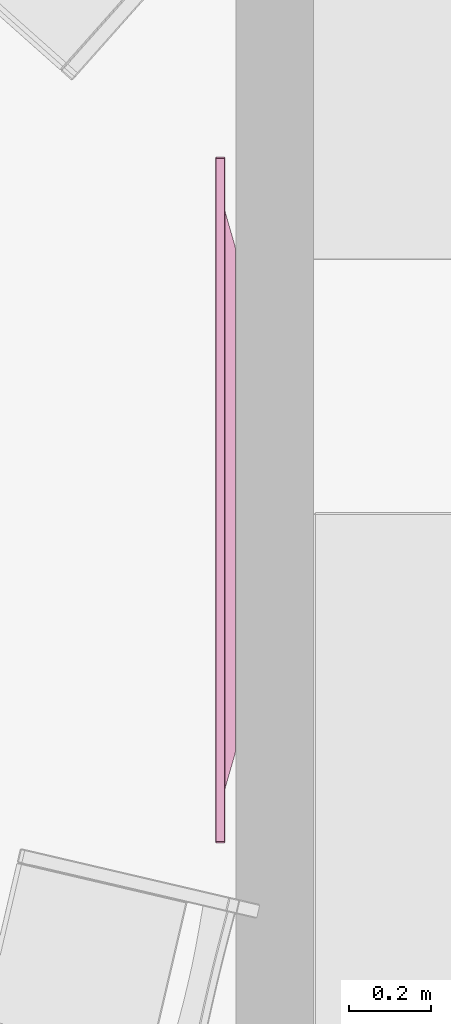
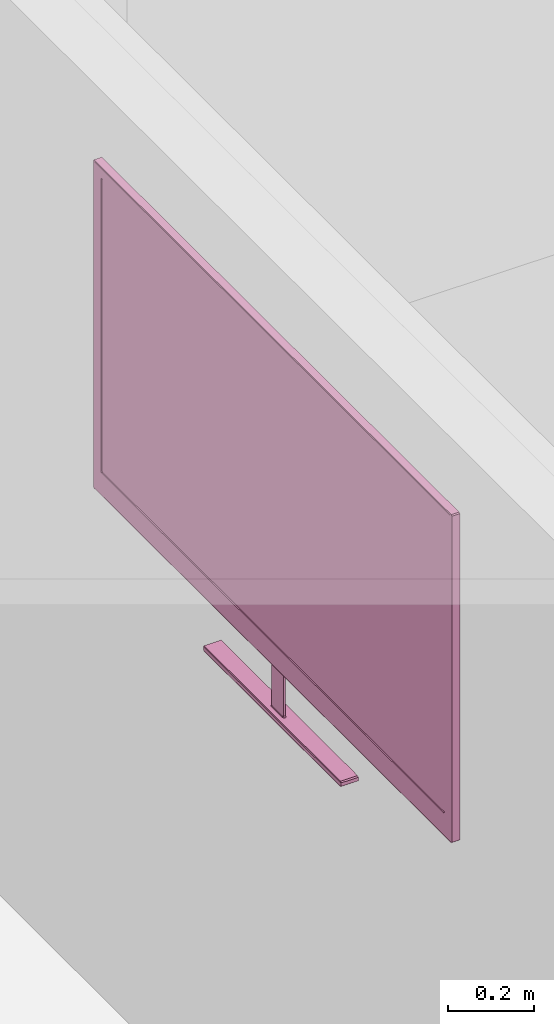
# One storey, part 24 of 26: 1 furnishing.
"""IFC2X3 building model written with IfcOpenShell, lengths in metres."""

import ifcopenshell
import ifcopenshell.guid

model = None  # the IFC model being written
_history = None  # IfcOwnerHistory: only IFC2X3 demands one
_inside = {}  # id of a spatial element -> (the spatial element, [elements in it])
_under = {}  # id of a project, library or spatial element -> (it, [spatial elements below it])
_declared = {}  # id of a project -> (the project, [libraries it declares])
_typed = {}  # id of a type object -> (the type object, [elements of that type])
_made_of = {}  # id of a material, layer set ... -> (it, [elements and type objects made of it])


def new_model(schema):
    """Start an empty IFC model of exactly this schema.

    Asked for "IFC4X3", IfcOpenShell would pick the latest addendum, in which some entities
    have other attributes; the version numbers below select the first issue.
    IFC2X3 requires an IfcOwnerHistory on every rooted entity: one is made here for all.
    """
    global model, _history
    if schema == "IFC4X3":
        model = ifcopenshell.file(schema_version=(4, 3, 0, 0))
    else:
        model = ifcopenshell.file(schema=schema)
    _inside.clear()
    _under.clear()
    _declared.clear()
    _typed.clear()
    _made_of.clear()
    _history = None
    if model.schema == "IFC2X3":
        org = make("IfcOrganization", Name="unknown")
        user = make(
            "IfcPersonAndOrganization",
            ThePerson=make("IfcPerson", FamilyName="unknown"),
            TheOrganization=org,
        )
        app = make(
            "IfcApplication",
            ApplicationDeveloper=org,
            Version="unknown",
            ApplicationFullName="unknown",
            ApplicationIdentifier="unknown",
        )
        _history = make(
            "IfcOwnerHistory",
            OwningUser=user,
            OwningApplication=app,
            ChangeAction="ADDED",
            CreationDate=0,
        )
    return model


def make(cls, **values):
    """One entity of the class cls with the attributes given. An attribute that is None is left unset."""
    return model.create_entity(
        cls, **{name: value for name, value in values.items() if value is not None}
    )


def rooted(cls, **values):
    """An entity with a GlobalId (a new one), such as an element, a storey or a relation."""
    return make(cls, GlobalId=ifcopenshell.guid.new(), OwnerHistory=_history, **values)


def si_unit(unit_type, name, prefix=None):
    """IfcSIUnit, for example si_unit("LENGTHUNIT", "METRE", prefix="MILLI")."""
    return make("IfcSIUnit", UnitType=unit_type, Prefix=prefix, Name=name)


def assignment(units):
    """IfcUnitAssignment: the units of a project."""
    return None if units is None else make("IfcUnitAssignment", Units=units)


def point(xyz):
    """IfcCartesianPoint."""
    return None if xyz is None else make("IfcCartesianPoint", Coordinates=xyz)


def direction(xyz):
    """IfcDirection."""
    return None if xyz is None else make("IfcDirection", DirectionRatios=xyz)


def frame(location, z_axis=None, x_axis=None):
    """IfcAxis2Placement3D, a coordinate frame: its origin and axes. An axis left out is left unset."""
    return make(
        "IfcAxis2Placement3D",
        Location=point(location),
        Axis=direction(z_axis),
        RefDirection=direction(x_axis),
    )


def origin_with_axes():
    """The frame at (0, 0, 0) with the z axis (0, 0, 1) and the x axis (1, 0, 0) written out."""
    return frame((0.0, 0.0, 0.0), z_axis=(0.0, 0.0, 1.0), x_axis=(1.0, 0.0, 0.0))


def place(relative_to, where):
    """IfcLocalPlacement: puts the frame where relative to a parent placement (None: the world)."""
    return make(
        "IfcLocalPlacement", PlacementRelTo=relative_to, RelativePlacement=where
    )


def context(
    kind, dimensions, precision=None, world=None, true_north=None, identifier=None
):
    """IfcGeometricRepresentationContext, for example the 3D "Model" context."""
    return make(
        "IfcGeometricRepresentationContext",
        ContextIdentifier=identifier,
        ContextType=kind,
        CoordinateSpaceDimension=dimensions,
        Precision=precision,
        WorldCoordinateSystem=world,
        TrueNorth=true_north,
    )


def project(units=None, contexts=None):
    """IfcProject with its units and contexts."""
    return rooted(
        "IfcProject",
        Name="project",
        RepresentationContexts=contexts,
        UnitsInContext=assignment(units),
    )


def spatial(cls, under=None, at=None, **own):
    """A site, building, storey or space (cls), placed at a placement, below another one or the project."""
    s = rooted(cls, ObjectPlacement=at, **own)
    if under is not None:
        _under.setdefault(under.id(), (under, []))[1].append(s)
    return s


def faces_of(points, faces, orient=None, outer=None):
    """IfcFace entities. A face is a list of loops; a loop is a list of indices into points, from 0.

    orient and outer hold one flag for each loop. By default every Orientation is true, the
    first loop of a face is its IfcFaceOuterBound and the others are IfcFaceBound.
    """
    made = []
    for i, loops in enumerate(faces):
        bounds = []
        for j, loop in enumerate(loops):
            is_outer = j == 0 if outer is None else outer[i][j]
            bounds.append(
                make(
                    "IfcFaceOuterBound" if is_outer else "IfcFaceBound",
                    Bound=make("IfcPolyLoop", Polygon=[points[k] for k in loop]),
                    Orientation=True if orient is None else orient[i][j],
                )
            )
        made.append(make("IfcFace", Bounds=bounds))
    return made


def faceted_brep(points, faces, orient=None, outer=None, voids=None):
    """IfcFacetedBrep: a solid bounded by flat faces; with voids (closed shells), ...WithVoids."""
    shared = [point(p) for p in points]
    hull = make("IfcClosedShell", CfsFaces=faces_of(shared, faces, orient, outer))
    if voids is None:
        return make("IfcFacetedBrep", Outer=hull)
    return make(
        "IfcFacetedBrepWithVoids",
        Outer=hull,
        Voids=[
            make(cls, CfsFaces=faces_of(shared, fs, o, b)) for cls, fs, o, b in voids
        ],
    )


def shape(context_of_items, identifier, shape_type, items):
    """IfcShapeRepresentation: the items that make up one representation, for example the "Body"."""
    return make(
        "IfcShapeRepresentation",
        ContextOfItems=context_of_items,
        RepresentationIdentifier=identifier,
        RepresentationType=shape_type,
        Items=items,
    )


def made_of(thing, what):
    """Note that an element or type object is made of a material, layer set ...; save() writes the relation."""
    if what is not None:
        _made_of.setdefault(what.id(), (what, []))[1].append(thing)
    return thing


def type_object(cls, material=None, **own):
    """A type object (cls), such as IfcWallType, which elements share."""
    return made_of(rooted(cls, **own), material)


def element(
    cls,
    number,
    at=None,
    inside=None,
    cuts=None,
    type_object=None,
    material=None,
    context=None,
    identifier="Body",
    shape_type=None,
    held_by="IfcProductDefinitionShape",
    body=None,
    shapes=None,
    **own,
):
    """One element of the class cls, such as IfcWall. Its Tag is "e" and its number.

    at: its placement. inside: the storey or other place that contains it. cuts: it is an
    opening in that element (IfcRelVoidsElement). A single representation is given by context,
    identifier, shape_type and body (its items); several are given by shapes. held_by: the class
    of the entity that holds the representations. save() writes the other relations.
    """
    e = rooted(cls, Tag="e%d" % number, ObjectPlacement=at, **own)
    if body is not None:
        shapes = [shape(context, identifier, shape_type, body)]
    if shapes is not None:
        e.Representation = make(held_by, Representations=shapes)
    if inside is not None:
        _inside.setdefault(inside.id(), (inside, []))[1].append(e)
    if cuts is not None:
        rooted(
            "IfcRelVoidsElement", RelatingBuildingElement=cuts, RelatedOpeningElement=e
        )
    if type_object is not None:
        _typed.setdefault(type_object.id(), (type_object, []))[1].append(e)
    return made_of(e, material)


def aggregate(whole, parts):
    """IfcRelAggregates: a whole, such as a stair, and the parts it consists of."""
    return rooted("IfcRelAggregates", RelatingObject=whole, RelatedObjects=parts)


def save(model, path):
    """Write the relations noted so far, then the file.

    IfcRelAggregates (storeys below a building ...), IfcRelContainedInSpatialStructure (elements
    in a storey), IfcRelDefinesByType, IfcRelAssociatesMaterial and IfcRelDeclares: one each for
    every whole, place, type object, material and project.
    """
    for whole, parts in _under.values():
        aggregate(whole, parts)
    for where, things in _inside.values():
        rooted(
            "IfcRelContainedInSpatialStructure",
            RelatedElements=things,
            RelatingStructure=where,
        )
    for kind, things in _typed.values():
        rooted("IfcRelDefinesByType", RelatedObjects=things, RelatingType=kind)
    for what, things in _made_of.values():
        rooted("IfcRelAssociatesMaterial", RelatedObjects=things, RelatingMaterial=what)
    for by, libraries in _declared.values():
        rooted("IfcRelDeclares", RelatingContext=by, RelatedDefinitions=libraries)
    model.write(path)


model = new_model("IFC2X3")

# Units and contexts
model_context = context("Model", 3, precision=1e-05, world=origin_with_axes(), true_north=direction((0.996, -0.093, 0.0)))
ifc_project = project(units=[si_unit("AREAUNIT", "SQUARE_METRE"), si_unit("LENGTHUNIT", "METRE")], contexts=[model_context])

# Site, building, storey, space
site_placement = place(None, origin_with_axes())
site = spatial("IfcSite", under=ifc_project, at=site_placement, Name="Site", CompositionType="ELEMENT")
building_placement = place(site_placement, origin_with_axes())
building = spatial("IfcBuilding", under=site, at=building_placement, Name="Building", CompositionType="ELEMENT")
storey_placement = place(building_placement, frame((0.0, 0.0, 0.0500001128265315), z_axis=(0.0, 0.0, 1.0), x_axis=(1.0, 0.0, 0.0)))
storey = spatial("IfcBuildingStorey", under=building, at=storey_placement, Name="Story 0", CompositionType="ELEMENT", Elevation=0.0499999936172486)
space_placement = place(storey_placement, frame((14.3044468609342, 7.25731168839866, 0.0), z_axis=(0.0, 0.0, 1.0), x_axis=(1.0, 0.0, 0.0)))
space = spatial("IfcSpace", under=storey, at=space_placement, Name="017", CompositionType="ELEMENT", InteriorOrExteriorSpace="INTERNAL")

# Furnishing
furniture_type = type_object("IfcFurnitureType", Name="4c5f06b1-99d2-45d6-8dc5-f8cf329c67a9")
furnishing_placement = place(space_placement, frame((8.59559281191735, 2.02205099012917, 1.88084943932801), z_axis=(0.0, 0.0, 1.00000000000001), x_axis=(-1.00000000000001, 0.0, 0.0)))
element("IfcFurnishingElement", 1, at=furnishing_placement, inside=space, type_object=furniture_type, Name="Television", ObjectType="Television", context=model_context, shape_type="Brep", body=[
    faceted_brep([(0.0175, -0.7913, -0.3209), (0.0175, 0.7913, -0.3209), (0.0175, -0.7945, -0.3179), (0.0175, -0.7945, 0.5031), (0.0175, -0.7945, -0.3179), (0.0175, -0.7913, 0.5061), (0.0175, 0.7913, 0.5061), (0.0175, -0.7913, 0.5061), (0.0175, 0.7945, 0.5031), (0.0175, -0.7913, 0.5061), (0.0175, -0.7945, -0.3179), (0.0175, 0.7945, 0.5031), (0.0175, -0.7945, -0.3179), (0.0175, 0.7913, -0.3209), (0.0175, 0.7945, 0.5031), (0.0175, 0.7913, -0.3209), (0.0175, 0.7945, -0.3179), (0.0175, 0.7945, 0.5031), (0.0018, -0.8345, 0.5399), (0.0018, -0.8345, -0.387), (0.0231, -0.8345, 0.5399), (0.0231, -0.8345, -0.387), (0.0231, -0.8345, 0.5399), (0.0018, -0.8345, -0.387), (0.0018, 0.8345, -0.387), (0.0018, 0.8345, 0.5399), (0.0231, 0.8345, -0.387), (0.0231, 0.8345, 0.5399), (0.0231, 0.8345, -0.387), (0.0018, 0.8345, 0.5399), (0.0018, 0.8314, 0.5427), (0.0018, -0.8314, 0.5427), (0.0231, 0.8314, 0.5427), (0.0231, -0.8314, 0.5427), (0.0231, 0.8314, 0.5427), (0.0018, -0.8314, 0.5427), (0.0087, -0.0288, -0.3564), (0.0037, -0.0288, -0.3564), (0.0087, -0.0288, -0.5242), (0.0037, -0.0288, -0.5242), (0.0087, -0.0288, -0.5242), (0.0037, -0.0288, -0.3564), (0.0098, 0.0228, -0.3564), (0.0098, -0.0257, -0.3564), (0.0098, 0.0228, -0.5242), (0.0098, -0.0257, -0.5242), (0.0098, 0.0228, -0.5242), (0.0098, -0.0257, -0.3564), (0.0037, 0.0259, -0.3564), (0.0087, 0.0259, -0.3564), (0.0037, 0.0259, -0.5242), (0.0087, 0.0259, -0.5242), (0.0037, 0.0259, -0.5242), (0.0087, 0.0259, -0.3564), (-0.0243, 0.6117, -0.2184), (-0.0243, -0.6117, -0.2184), (-0.0243, 0.6117, 0.3713), (-0.0243, -0.6117, 0.3713), (-0.0243, 0.6117, 0.3713), (-0.0243, -0.6117, -0.2184), (0.0026, 0.0228, -0.5242), (0.0026, -0.0257, -0.5242), (0.0026, 0.0228, -0.3564), (0.0026, -0.0257, -0.3564), (0.0026, 0.0228, -0.3564), (0.0026, -0.0257, -0.5242), (0.0231, -0.8314, -0.3898), (0.0018, -0.8314, -0.3898), (0.0231, 0.8314, -0.3898), (0.0018, 0.8314, -0.3898), (0.0231, 0.8314, -0.3898), (0.0018, -0.8314, -0.3898), (-0.023, -0.3191, -0.5427), (-0.023, 0.3163, -0.5427), (0.0232, -0.3191, -0.5427), (0.0232, 0.3163, -0.5427), (0.0232, -0.3191, -0.5427), (-0.023, 0.3163, -0.5427), (0.0242, -0.7988, -0.3294), (0.0242, -0.8295, -0.387), (0.0242, 0.7988, -0.3294), (0.0242, 0.8295, -0.387), (0.0242, 0.7988, -0.3294), (0.0242, -0.8295, -0.387), (0.0242, -0.8038, 0.5106), (0.0242, -0.8314, 0.5359), (0.0242, -0.8038, -0.3259), (0.0242, -0.8314, -0.3776), (0.0242, -0.8038, -0.3259), (0.0242, -0.8314, 0.5359), (0.0242, 0.7994, 0.5146), (0.0242, 0.827, 0.5399), (0.0242, -0.7994, 0.5146), (0.0242, -0.827, 0.5399), (0.0242, -0.7994, 0.5146), (0.0242, 0.827, 0.5399), (0.0242, 0.8314, -0.3776), (0.0242, 0.8314, 0.5359), (0.0242, 0.8038, -0.3259), (0.0242, 0.8038, 0.5106), (0.0242, 0.8038, -0.3259), (0.0242, 0.8314, 0.5359), (0.0175, -0.7913, -0.3209), (0.0231, -0.7965, -0.3257), (0.0175, 0.7913, -0.3209), (0.0231, 0.7965, -0.3257), (0.0175, 0.7913, -0.3209), (0.0231, -0.7965, -0.3257), (0.0175, -0.7945, 0.5031), (0.0231, -0.7997, 0.5079), (0.0175, -0.7945, -0.3179), (0.0231, -0.7997, -0.3227), (0.0175, -0.7945, -0.3179), (0.0231, -0.7997, 0.5079), (0.0175, 0.7913, 0.5061), (0.0231, 0.7965, 0.5109), (0.0175, -0.7913, 0.5061), (0.0231, -0.7965, 0.5109), (0.0175, -0.7913, 0.5061), (0.0231, 0.7965, 0.5109), (0.0175, 0.7945, -0.3179), (0.0231, 0.7997, -0.3227), (0.0175, 0.7945, 0.5031), (0.0231, 0.7997, 0.5079), (0.0175, 0.7945, 0.5031), (0.0231, 0.7997, -0.3227), (0.0007, -0.7044, -0.2733), (0.0007, -0.8314, -0.3833), (0.0007, -0.7044, 0.4262), (0.0007, -0.8314, 0.5361), (0.0007, -0.7044, 0.4262), (0.0007, -0.8314, -0.3833), (0.0007, 0.7001, -0.2774), (0.0007, 0.8267, -0.387), (0.0007, -0.7001, -0.2774), (0.0007, -0.8267, -0.387), (0.0007, -0.7001, -0.2774), (0.0007, 0.8267, -0.387), (0.0007, 0.7044, 0.4262), (0.0007, 0.8314, 0.5361), (0.0007, 0.7044, -0.2733), (0.0007, 0.8314, -0.3833), (0.0007, 0.7044, -0.2733), (0.0007, 0.8314, 0.5361), (0.0007, -0.7001, 0.4303), (0.0007, -0.8267, 0.5399), (0.0007, 0.7001, 0.4303), (0.0007, 0.8267, 0.5399), (0.0007, 0.7001, 0.4303), (0.0007, -0.8267, 0.5399), (-0.0236, -0.6172, 0.3724), (-0.0236, -0.6172, -0.2196), (0.0, -0.6989, 0.4227), (0.0, -0.6989, -0.2698), (0.0, -0.6989, 0.4227), (-0.0236, -0.6172, -0.2196), (-0.0234, -0.6134, -0.2231), (-0.0234, 0.6134, -0.2231), (-0.0002, -0.6941, -0.2727), (-0.0002, 0.6941, -0.2727), (-0.0002, -0.6941, -0.2727), (-0.0234, 0.6134, -0.2231), (-0.0236, 0.6172, -0.2196), (-0.0236, 0.6172, 0.3724), (0.0, 0.6989, -0.2698), (0.0, 0.6989, 0.4227), (0.0, 0.6989, -0.2698), (-0.0236, 0.6172, 0.3724), (-0.0234, 0.6134, 0.376), (-0.0234, -0.6134, 0.376), (-0.0002, 0.6941, 0.4256), (-0.0002, -0.6941, 0.4256), (-0.0002, 0.6941, 0.4256), (-0.0234, -0.6134, 0.376), (0.0243, 0.3163, -0.5399), (0.0243, 0.3163, -0.53), (0.0243, -0.3191, -0.5399), (0.0243, -0.3191, -0.53), (0.0243, -0.3191, -0.5399), (0.0243, 0.3163, -0.53), (-0.023, 0.3194, -0.5399), (-0.023, 0.3194, -0.53), (0.0232, 0.3194, -0.5399), (0.0232, 0.3194, -0.53), (0.0232, 0.3194, -0.5399), (-0.023, 0.3194, -0.53), (-0.0241, -0.3191, -0.5399), (-0.0241, -0.3191, -0.53), (-0.0241, 0.3163, -0.5399), (-0.0241, 0.3163, -0.53), (-0.0241, 0.3163, -0.5399), (-0.0241, -0.3191, -0.53), (0.0232, -0.3222, -0.5399), (0.0232, -0.3222, -0.53), (-0.023, -0.3222, -0.5399), (-0.023, -0.3222, -0.53), (-0.023, -0.3222, -0.5399), (0.0232, -0.3222, -0.53), (-0.0227, -0.3191, -0.5272), (0.023, -0.3191, -0.5272), (0.0035, -0.0318, -0.527), (0.0088, -0.0318, -0.527), (0.0035, -0.0318, -0.527), (0.023, -0.3191, -0.5272), (0.0015, 0.0255, -0.527), (-0.023, 0.2945, -0.5272), (0.0015, -0.0284, -0.527), (-0.023, -0.2973, -0.5272), (0.0015, -0.0284, -0.527), (-0.023, 0.2945, -0.5272), (0.0088, 0.029, -0.527), (0.023, 0.3163, -0.5272), (0.0035, 0.029, -0.527), (-0.0227, 0.3163, -0.5272), (0.0035, 0.029, -0.527), (0.023, 0.3163, -0.5272), (0.0109, -0.0285, -0.527), (0.0232, -0.2767, -0.5271), (0.0109, 0.0257, -0.527), (0.0232, 0.2738, -0.5271), (0.0109, 0.0257, -0.527), (0.0232, -0.2767, -0.5271), (0.021, -0.8162, -0.3372), (0.021, 0.8162, -0.3372), (0.021, -0.8162, 0.5224), (0.021, 0.8162, 0.5224), (0.021, -0.8162, 0.5224), (0.021, 0.8162, -0.3372), (0.0242, -0.827, 0.5399), (0.0231, -0.8314, 0.5427), (0.0242, -0.8314, 0.5359), (0.0231, -0.8345, 0.5399), (0.0242, -0.8314, 0.5359), (0.0231, -0.8314, 0.5427), (0.0007, 0.8267, 0.5399), (0.0018, 0.8314, 0.5427), (0.0007, 0.8314, 0.5361), (0.0018, 0.8345, 0.5399), (0.0007, 0.8314, 0.5361), (0.0018, 0.8314, 0.5427), (0.0242, 0.8314, 0.5359), (0.0231, 0.8345, 0.5399), (0.0242, 0.827, 0.5399), (0.0231, 0.8314, 0.5427), (0.0242, 0.827, 0.5399), (0.0231, 0.8345, 0.5399), (0.0035, -0.0318, -0.527), (0.0037, -0.0288, -0.5242), (0.0015, -0.0284, -0.527), (0.0026, -0.0257, -0.5242), (0.0015, -0.0284, -0.527), (0.0037, -0.0288, -0.5242), (0.0088, -0.0318, -0.527), (0.0109, -0.0285, -0.527), (0.0087, -0.0288, -0.5242), (0.0098, -0.0257, -0.5242), (0.0087, -0.0288, -0.5242), (0.0109, -0.0285, -0.527), (0.0088, 0.029, -0.527), (0.0087, 0.0259, -0.5242), (0.0109, 0.0257, -0.527), (0.0098, 0.0228, -0.5242), (0.0109, 0.0257, -0.527), (0.0087, 0.0259, -0.5242), (-0.0234, -0.6134, 0.376), (-0.0243, -0.6117, 0.3713), (-0.0236, -0.6172, 0.3724), (0.0035, 0.029, -0.527), (0.0015, 0.0255, -0.527), (0.0037, 0.0259, -0.5242), (0.0026, 0.0228, -0.5242), (0.0037, 0.0259, -0.5242), (0.0015, 0.0255, -0.527), (0.0007, -0.8267, -0.387), (0.0018, -0.8314, -0.3898), (0.0007, -0.8314, -0.3833), (0.0018, -0.8345, -0.387), (0.0007, -0.8314, -0.3833), (0.0018, -0.8314, -0.3898), (0.0242, -0.8314, -0.3776), (0.0231, -0.8345, -0.387), (0.0242, -0.8295, -0.387), (0.0231, -0.8314, -0.3898), (0.0242, -0.8295, -0.387), (0.0231, -0.8345, -0.387), (0.0232, -0.3222, -0.5399), (0.0232, -0.3191, -0.5427), (0.0243, -0.3191, -0.5399), (0.0242, 0.8314, -0.3776), (0.0242, 0.8295, -0.387), (0.0231, 0.8345, -0.387), (0.0231, 0.8314, -0.3898), (0.0231, 0.8345, -0.387), (0.0242, 0.8295, -0.387), (0.0231, -0.7997, -0.3227), (0.0242, -0.8038, -0.3259), (0.0231, -0.7965, -0.3257), (0.0242, -0.7988, -0.3294), (0.0231, -0.7965, -0.3257), (0.0242, -0.8038, -0.3259), (0.0231, -0.7965, 0.5109), (0.0242, -0.7994, 0.5146), (0.0231, -0.7997, 0.5079), (0.0242, -0.8038, 0.5106), (0.0231, -0.7997, 0.5079), (0.0242, -0.7994, 0.5146), (0.0231, 0.7997, 0.5079), (0.0242, 0.8038, 0.5106), (0.0231, 0.7965, 0.5109), (0.0242, 0.7994, 0.5146), (0.0231, 0.7965, 0.5109), (0.0242, 0.8038, 0.5106), (0.0231, 0.7997, -0.3227), (0.0231, 0.7965, -0.3257), (0.0242, 0.8038, -0.3259), (0.0242, 0.7988, -0.3294), (0.0242, 0.8038, -0.3259), (0.0231, 0.7965, -0.3257), (0.0007, -0.8267, 0.5399), (0.0007, -0.8314, 0.5361), (0.0018, -0.8314, 0.5427), (0.0018, -0.8345, 0.5399), (0.0018, -0.8314, 0.5427), (0.0007, -0.8314, 0.5361), (-0.0002, -0.6941, 0.4256), (0.0, -0.6989, 0.4227), (0.0007, -0.7001, 0.4303), (0.0007, -0.7044, 0.4262), (0.0007, -0.7001, 0.4303), (0.0, -0.6989, 0.4227), (-0.0002, -0.6941, -0.2727), (0.0007, -0.7001, -0.2774), (0.0, -0.6989, -0.2698), (0.0007, -0.7044, -0.2733), (0.0, -0.6989, -0.2698), (0.0007, -0.7001, -0.2774), (0.0007, 0.8267, -0.387), (0.0007, 0.8314, -0.3833), (0.0018, 0.8314, -0.3898), (0.0018, 0.8345, -0.387), (0.0018, 0.8314, -0.3898), (0.0007, 0.8314, -0.3833), (-0.0002, 0.6941, -0.2727), (0.0, 0.6989, -0.2698), (0.0007, 0.7001, -0.2774), (0.0007, 0.7044, -0.2733), (0.0007, 0.7001, -0.2774), (0.0, 0.6989, -0.2698), (-0.0002, 0.6941, 0.4256), (0.0007, 0.7001, 0.4303), (0.0, 0.6989, 0.4227), (0.0007, 0.7044, 0.4262), (0.0, 0.6989, 0.4227), (0.0007, 0.7001, 0.4303), (-0.0234, -0.6134, -0.2231), (-0.0236, -0.6172, -0.2196), (-0.0243, -0.6117, -0.2184), (-0.0236, 0.6172, -0.2196), (-0.0234, 0.6134, -0.2231), (-0.0243, 0.6117, -0.2184), (-0.0234, 0.6134, 0.376), (-0.0236, 0.6172, 0.3724), (-0.0243, 0.6117, 0.3713), (0.0232, 0.3194, -0.5399), (0.0243, 0.3163, -0.5399), (0.0232, 0.3163, -0.5427), (-0.0241, 0.3163, -0.5399), (-0.023, 0.3194, -0.5399), (-0.023, 0.3163, -0.5427), (-0.023, -0.3222, -0.5399), (-0.0241, -0.3191, -0.5399), (-0.023, -0.3191, -0.5427), (-0.023, -0.2973, -0.5272), (-0.0241, -0.3191, -0.53), (-0.0227, -0.3191, -0.5272), (-0.023, -0.3222, -0.53), (-0.0227, -0.3191, -0.5272), (-0.0241, -0.3191, -0.53), (0.0232, -0.2767, -0.5271), (0.023, -0.3191, -0.5272), (0.0243, -0.3191, -0.53), (0.0232, -0.3222, -0.53), (0.0243, -0.3191, -0.53), (0.023, -0.3191, -0.5272), (-0.023, 0.2945, -0.5272), (-0.0227, 0.3163, -0.5272), (-0.0241, 0.3163, -0.53), (-0.023, 0.3194, -0.53), (-0.0241, 0.3163, -0.53), (-0.0227, 0.3163, -0.5272), (0.0232, 0.3194, -0.53), (0.023, 0.3163, -0.5272), (0.0243, 0.3163, -0.53), (0.0232, 0.2738, -0.5271), (0.0243, 0.3163, -0.53), (0.023, 0.3163, -0.5272), (0.0231, -0.8345, -0.387), (0.0018, -0.8345, -0.387), (0.0231, -0.8314, -0.3898), (0.0018, -0.8314, -0.3898), (0.0231, -0.8314, -0.3898), (0.0018, -0.8345, -0.387), (0.0018, -0.8345, 0.5399), (0.0231, -0.8345, 0.5399), (0.0018, -0.8314, 0.5427), (0.0231, -0.8314, 0.5427), (0.0018, -0.8314, 0.5427), (0.0231, -0.8345, 0.5399), (0.0231, 0.8345, 0.5399), (0.0018, 0.8345, 0.5399), (0.0231, 0.8314, 0.5427), (0.0018, 0.8314, 0.5427), (0.0231, 0.8314, 0.5427), (0.0018, 0.8345, 0.5399), (0.0018, 0.8345, -0.387), (0.0231, 0.8345, -0.387), (0.0018, 0.8314, -0.3898), (0.0231, 0.8314, -0.3898), (0.0018, 0.8314, -0.3898), (0.0231, 0.8345, -0.387), (0.0037, -0.0288, -0.5242), (0.0037, -0.0288, -0.3564), (0.0026, -0.0257, -0.5242), (0.0026, -0.0257, -0.3564), (0.0026, -0.0257, -0.5242), (0.0037, -0.0288, -0.3564), (0.0087, -0.0288, -0.3564), (0.0087, -0.0288, -0.5242), (0.0098, -0.0257, -0.3564), (0.0098, -0.0257, -0.5242), (0.0098, -0.0257, -0.3564), (0.0087, -0.0288, -0.5242), (0.0098, 0.0228, -0.3564), (0.0098, 0.0228, -0.5242), (0.0087, 0.0259, -0.3564), (0.0087, 0.0259, -0.5242), (0.0087, 0.0259, -0.3564), (0.0098, 0.0228, -0.5242), (0.0037, 0.0259, -0.3564), (0.0037, 0.0259, -0.5242), (0.0026, 0.0228, -0.3564), (0.0026, 0.0228, -0.5242), (0.0026, 0.0228, -0.3564), (0.0037, 0.0259, -0.5242), (-0.0243, -0.6117, 0.3713), (-0.0243, -0.6117, -0.2184), (-0.0236, -0.6172, 0.3724), (-0.0236, -0.6172, -0.2196), (-0.0236, -0.6172, 0.3724), (-0.0243, -0.6117, -0.2184), (-0.0243, -0.6117, -0.2184), (-0.0243, 0.6117, -0.2184), (-0.0234, -0.6134, -0.2231), (-0.0234, 0.6134, -0.2231), (-0.0234, -0.6134, -0.2231), (-0.0243, 0.6117, -0.2184), (-0.0243, 0.6117, -0.2184), (-0.0243, 0.6117, 0.3713), (-0.0236, 0.6172, -0.2196), (-0.0236, 0.6172, 0.3724), (-0.0236, 0.6172, -0.2196), (-0.0243, 0.6117, 0.3713), (-0.0243, 0.6117, 0.3713), (-0.0243, -0.6117, 0.3713), (-0.0234, 0.6134, 0.376), (-0.0234, -0.6134, 0.376), (-0.0234, 0.6134, 0.376), (-0.0243, -0.6117, 0.3713), (0.0232, 0.3163, -0.5427), (-0.023, 0.3163, -0.5427), (0.0232, 0.3194, -0.5399), (-0.023, 0.3194, -0.5399), (0.0232, 0.3194, -0.5399), (-0.023, 0.3163, -0.5427), (-0.023, 0.3163, -0.5427), (-0.023, -0.3191, -0.5427), (-0.0241, 0.3163, -0.5399), (-0.0241, -0.3191, -0.5399), (-0.0241, 0.3163, -0.5399), (-0.023, -0.3191, -0.5427), (-0.023, -0.3191, -0.5427), (0.0232, -0.3191, -0.5427), (-0.023, -0.3222, -0.5399), (0.0232, -0.3222, -0.5399), (-0.023, -0.3222, -0.5399), (0.0232, -0.3191, -0.5427), (0.0232, -0.3191, -0.5427), (0.0232, 0.3163, -0.5427), (0.0243, -0.3191, -0.5399), (0.0243, 0.3163, -0.5399), (0.0243, -0.3191, -0.5399), (0.0232, 0.3163, -0.5427), (0.0242, 0.8295, -0.387), (0.0242, -0.8295, -0.387), (0.0231, 0.8314, -0.3898), (0.0231, -0.8314, -0.3898), (0.0231, 0.8314, -0.3898), (0.0242, -0.8295, -0.387), (0.0242, -0.8295, -0.387), (0.0242, -0.7988, -0.3294), (0.0242, -0.8314, -0.3776), (0.0242, -0.8038, -0.3259), (0.0242, -0.8314, -0.3776), (0.0242, -0.7988, -0.3294), (0.0242, -0.8314, -0.3776), (0.0242, -0.8314, 0.5359), (0.0231, -0.8345, -0.387), (0.0231, -0.8345, 0.5399), (0.0231, -0.8345, -0.387), (0.0242, -0.8314, 0.5359), (0.0242, -0.8314, 0.5359), (0.0242, -0.8038, 0.5106), (0.0242, -0.827, 0.5399), (0.0242, -0.7994, 0.5146), (0.0242, -0.827, 0.5399), (0.0242, -0.8038, 0.5106), (0.0242, -0.827, 0.5399), (0.0242, 0.827, 0.5399), (0.0231, -0.8314, 0.5427), (0.0231, 0.8314, 0.5427), (0.0231, -0.8314, 0.5427), (0.0242, 0.827, 0.5399), (0.0242, 0.827, 0.5399), (0.0242, 0.7994, 0.5146), (0.0242, 0.8314, 0.5359), (0.0242, 0.8038, 0.5106), (0.0242, 0.8314, 0.5359), (0.0242, 0.7994, 0.5146), (0.0242, 0.8314, 0.5359), (0.0242, 0.8314, -0.3776), (0.0231, 0.8345, 0.5399), (0.0231, 0.8345, -0.387), (0.0231, 0.8345, 0.5399), (0.0242, 0.8314, -0.3776), (0.0242, 0.8314, -0.3776), (0.0242, 0.8038, -0.3259), (0.0242, 0.8295, -0.387), (0.0242, 0.7988, -0.3294), (0.0242, 0.8295, -0.387), (0.0242, 0.8038, -0.3259), (0.0231, 0.7965, -0.3257), (0.0231, -0.7965, -0.3257), (0.0242, 0.7988, -0.3294), (0.0242, -0.7988, -0.3294), (0.0242, 0.7988, -0.3294), (0.0231, -0.7965, -0.3257), (0.0231, -0.7965, -0.3257), (0.0175, -0.7913, -0.3209), (0.0231, -0.7997, -0.3227), (0.0175, -0.7945, -0.3179), (0.0231, -0.7997, -0.3227), (0.0175, -0.7913, -0.3209), (0.0231, -0.7997, -0.3227), (0.0231, -0.7997, 0.5079), (0.0242, -0.8038, -0.3259), (0.0242, -0.8038, 0.5106), (0.0242, -0.8038, -0.3259), (0.0231, -0.7997, 0.5079), (0.0231, -0.7997, 0.5079), (0.0175, -0.7945, 0.5031), (0.0231, -0.7965, 0.5109), (0.0175, -0.7913, 0.5061), (0.0231, -0.7965, 0.5109), (0.0175, -0.7945, 0.5031), (0.0231, -0.7965, 0.5109), (0.0231, 0.7965, 0.5109), (0.0242, -0.7994, 0.5146), (0.0242, 0.7994, 0.5146), (0.0242, -0.7994, 0.5146), (0.0231, 0.7965, 0.5109), (0.0231, 0.7965, 0.5109), (0.0175, 0.7913, 0.5061), (0.0231, 0.7997, 0.5079), (0.0175, 0.7945, 0.5031), (0.0231, 0.7997, 0.5079), (0.0175, 0.7913, 0.5061), (0.0231, 0.7997, 0.5079), (0.0231, 0.7997, -0.3227), (0.0242, 0.8038, 0.5106), (0.0242, 0.8038, -0.3259), (0.0242, 0.8038, 0.5106), (0.0231, 0.7997, -0.3227), (0.0231, 0.7997, -0.3227), (0.0175, 0.7945, -0.3179), (0.0231, 0.7965, -0.3257), (0.0175, 0.7913, -0.3209), (0.0231, 0.7965, -0.3257), (0.0175, 0.7945, -0.3179), (0.0007, -0.8314, 0.5361), (0.0007, -0.8314, -0.3833), (0.0018, -0.8345, 0.5399), (0.0018, -0.8345, -0.387), (0.0018, -0.8345, 0.5399), (0.0007, -0.8314, -0.3833), (0.0007, -0.8314, -0.3833), (0.0007, -0.7044, -0.2733), (0.0007, -0.8267, -0.387), (0.0007, -0.7001, -0.2774), (0.0007, -0.8267, -0.387), (0.0007, -0.7044, -0.2733), (0.0007, -0.7044, -0.2733), (0.0007, -0.7044, 0.4262), (0.0, -0.6989, -0.2698), (0.0, -0.6989, 0.4227), (0.0, -0.6989, -0.2698), (0.0007, -0.7044, 0.4262), (0.0007, -0.8267, -0.387), (0.0007, 0.8267, -0.387), (0.0018, -0.8314, -0.3898), (0.0018, 0.8314, -0.3898), (0.0018, -0.8314, -0.3898), (0.0007, 0.8267, -0.387), (0.0007, 0.8267, -0.387), (0.0007, 0.7001, -0.2774), (0.0007, 0.8314, -0.3833), (0.0007, 0.7044, -0.2733), (0.0007, 0.8314, -0.3833), (0.0007, 0.7001, -0.2774), (0.0007, 0.7001, -0.2774), (0.0007, -0.7001, -0.2774), (-0.0002, 0.6941, -0.2727), (-0.0002, -0.6941, -0.2727), (-0.0002, 0.6941, -0.2727), (0.0007, -0.7001, -0.2774), (0.0007, 0.8314, -0.3833), (0.0007, 0.8314, 0.5361), (0.0018, 0.8345, -0.387), (0.0018, 0.8345, 0.5399), (0.0018, 0.8345, -0.387), (0.0007, 0.8314, 0.5361), (0.0007, 0.8314, 0.5361), (0.0007, 0.7044, 0.4262), (0.0007, 0.8267, 0.5399), (0.0007, 0.7001, 0.4303), (0.0007, 0.8267, 0.5399), (0.0007, 0.7044, 0.4262), (0.0007, 0.7044, 0.4262), (0.0007, 0.7044, -0.2733), (0.0, 0.6989, 0.4227), (0.0, 0.6989, -0.2698), (0.0, 0.6989, 0.4227), (0.0007, 0.7044, -0.2733), (0.0007, 0.8267, 0.5399), (0.0007, -0.8267, 0.5399), (0.0018, 0.8314, 0.5427), (0.0018, -0.8314, 0.5427), (0.0018, 0.8314, 0.5427), (0.0007, -0.8267, 0.5399), (0.0007, -0.8267, 0.5399), (0.0007, -0.7001, 0.4303), (0.0007, -0.8314, 0.5361), (0.0007, -0.7044, 0.4262), (0.0007, -0.8314, 0.5361), (0.0007, -0.7001, 0.4303), (0.0007, -0.7001, 0.4303), (0.0007, 0.7001, 0.4303), (-0.0002, -0.6941, 0.4256), (-0.0002, 0.6941, 0.4256), (-0.0002, -0.6941, 0.4256), (0.0007, 0.7001, 0.4303), (0.0, -0.6989, -0.2698), (-0.0236, -0.6172, -0.2196), (-0.0002, -0.6941, -0.2727), (-0.0234, -0.6134, -0.2231), (-0.0002, -0.6941, -0.2727), (-0.0236, -0.6172, -0.2196), (-0.0002, 0.6941, -0.2727), (-0.0234, 0.6134, -0.2231), (0.0, 0.6989, -0.2698), (-0.0236, 0.6172, -0.2196), (0.0, 0.6989, -0.2698), (-0.0234, 0.6134, -0.2231), (0.0, 0.6989, 0.4227), (-0.0236, 0.6172, 0.3724), (-0.0002, 0.6941, 0.4256), (-0.0234, 0.6134, 0.376), (-0.0002, 0.6941, 0.4256), (-0.0236, 0.6172, 0.3724), (-0.0002, -0.6941, 0.4256), (-0.0234, -0.6134, 0.376), (0.0, -0.6989, 0.4227), (-0.0236, -0.6172, 0.3724), (0.0, -0.6989, 0.4227), (-0.0234, -0.6134, 0.376), (0.0243, 0.3163, -0.53), (0.0243, 0.3163, -0.5399), (0.0232, 0.3194, -0.53), (0.0232, 0.3194, -0.5399), (0.0232, 0.3194, -0.53), (0.0243, 0.3163, -0.5399), (-0.023, 0.3194, -0.53), (-0.023, 0.3194, -0.5399), (-0.0241, 0.3163, -0.53), (-0.0241, 0.3163, -0.5399), (-0.0241, 0.3163, -0.53), (-0.023, 0.3194, -0.5399), (-0.0241, -0.3191, -0.53), (-0.0241, -0.3191, -0.5399), (-0.023, -0.3222, -0.53), (-0.023, -0.3222, -0.5399), (-0.023, -0.3222, -0.53), (-0.0241, -0.3191, -0.5399), (0.0232, -0.3222, -0.53), (0.0232, -0.3222, -0.5399), (0.0243, -0.3191, -0.53), (0.0243, -0.3191, -0.5399), (0.0243, -0.3191, -0.53), (0.0232, -0.3222, -0.5399), (0.023, -0.3191, -0.5272), (-0.0227, -0.3191, -0.5272), (0.0232, -0.3222, -0.53), (-0.023, -0.3222, -0.53), (0.0232, -0.3222, -0.53), (-0.0227, -0.3191, -0.5272), (-0.0227, -0.3191, -0.5272), (0.0035, -0.0318, -0.527), (-0.023, -0.2973, -0.5272), (0.0015, -0.0284, -0.527), (-0.023, -0.2973, -0.5272), (0.0035, -0.0318, -0.527), (0.0035, -0.0318, -0.527), (0.0088, -0.0318, -0.527), (0.0037, -0.0288, -0.5242), (0.0087, -0.0288, -0.5242), (0.0037, -0.0288, -0.5242), (0.0088, -0.0318, -0.527), (-0.023, -0.2973, -0.5272), (-0.023, 0.2945, -0.5272), (-0.0241, -0.3191, -0.53), (-0.0241, 0.3163, -0.53), (-0.0241, -0.3191, -0.53), (-0.023, 0.2945, -0.5272), (-0.023, 0.2945, -0.5272), (0.0015, 0.0255, -0.527), (-0.0227, 0.3163, -0.5272), (0.0035, 0.029, -0.527), (-0.0227, 0.3163, -0.5272), (0.0015, 0.0255, -0.527), (0.0015, 0.0255, -0.527), (0.0015, -0.0284, -0.527), (0.0026, 0.0228, -0.5242), (0.0026, -0.0257, -0.5242), (0.0026, 0.0228, -0.5242), (0.0015, -0.0284, -0.527), (-0.0227, 0.3163, -0.5272), (0.023, 0.3163, -0.5272), (-0.023, 0.3194, -0.53), (0.0232, 0.3194, -0.53), (-0.023, 0.3194, -0.53), (0.023, 0.3163, -0.5272), (0.023, 0.3163, -0.5272), (0.0088, 0.029, -0.527), (0.0232, 0.2738, -0.5271), (0.0109, 0.0257, -0.527), (0.0232, 0.2738, -0.5271), (0.0088, 0.029, -0.527), (0.0088, 0.029, -0.527), (0.0035, 0.029, -0.527), (0.0087, 0.0259, -0.5242), (0.0037, 0.0259, -0.5242), (0.0087, 0.0259, -0.5242), (0.0035, 0.029, -0.527), (0.0232, 0.2738, -0.5271), (0.0232, -0.2767, -0.5271), (0.0243, 0.3163, -0.53), (0.0243, -0.3191, -0.53), (0.0243, 0.3163, -0.53), (0.0232, -0.2767, -0.5271), (0.0232, -0.2767, -0.5271), (0.0109, -0.0285, -0.527), (0.023, -0.3191, -0.5272), (0.0088, -0.0318, -0.527), (0.023, -0.3191, -0.5272), (0.0109, -0.0285, -0.527), (0.0109, -0.0285, -0.527), (0.0109, 0.0257, -0.527), (0.0098, -0.0257, -0.5242), (0.0098, 0.0228, -0.5242), (0.0098, -0.0257, -0.5242), (0.0109, 0.0257, -0.527)], [[[0, 1, 2]], [[3, 4, 5]], [[6, 7, 8]], [[9, 10, 11]], [[12, 13, 14]], [[15, 16, 17]], [[18, 19, 20]], [[21, 22, 23]], [[24, 25, 26]], [[27, 28, 29]], [[30, 31, 32]], [[33, 34, 35]], [[36, 37, 38]], [[39, 40, 41]], [[42, 43, 44]], [[45, 46, 47]], [[48, 49, 50]], [[51, 52, 53]], [[54, 55, 56]], [[57, 58, 59]], [[60, 61, 62]], [[63, 64, 65]], [[66, 67, 68]], [[69, 70, 71]], [[72, 73, 74]], [[75, 76, 77]], [[78, 79, 80]], [[81, 82, 83]], [[84, 85, 86]], [[87, 88, 89]], [[90, 91, 92]], [[93, 94, 95]], [[96, 97, 98]], [[99, 100, 101]], [[102, 103, 104]], [[105, 106, 107]], [[108, 109, 110]], [[111, 112, 113]], [[114, 115, 116]], [[117, 118, 119]], [[120, 121, 122]], [[123, 124, 125]], [[126, 127, 128]], [[129, 130, 131]], [[132, 133, 134]], [[135, 136, 137]], [[138, 139, 140]], [[141, 142, 143]], [[144, 145, 146]], [[147, 148, 149]], [[150, 151, 152]], [[153, 154, 155]], [[156, 157, 158]], [[159, 160, 161]], [[162, 163, 164]], [[165, 166, 167]], [[168, 169, 170]], [[171, 172, 173]], [[174, 175, 176]], [[177, 178, 179]], [[180, 181, 182]], [[183, 184, 185]], [[186, 187, 188]], [[189, 190, 191]], [[192, 193, 194]], [[195, 196, 197]], [[198, 199, 200]], [[201, 202, 203]], [[204, 205, 206]], [[207, 208, 209]], [[210, 211, 212]], [[213, 214, 215]], [[216, 217, 218]], [[219, 220, 221]], [[222, 223, 224]], [[225, 226, 227]], [[228, 229, 230]], [[231, 232, 233]], [[234, 235, 236]], [[237, 238, 239]], [[240, 241, 242]], [[243, 244, 245]], [[246, 247, 248]], [[249, 250, 251]], [[252, 253, 254]], [[255, 256, 257]], [[258, 259, 260]], [[261, 262, 263]], [[264, 265, 266]], [[267, 268, 269]], [[270, 271, 272]], [[273, 274, 275]], [[276, 277, 278]], [[279, 280, 281]], [[282, 283, 284]], [[285, 286, 287]], [[288, 289, 290]], [[291, 292, 293]], [[294, 295, 296]], [[297, 298, 299]], [[300, 301, 302]], [[303, 304, 305]], [[306, 307, 308]], [[309, 310, 311]], [[312, 313, 314]], [[315, 316, 317]], [[318, 319, 320]], [[321, 322, 323]], [[324, 325, 326]], [[327, 328, 329]], [[330, 331, 332]], [[333, 334, 335]], [[336, 337, 338]], [[339, 340, 341]], [[342, 343, 344]], [[345, 346, 347]], [[348, 349, 350]], [[351, 352, 353]], [[354, 355, 356]], [[357, 358, 359]], [[360, 361, 362]], [[363, 364, 365]], [[366, 367, 368]], [[369, 370, 371]], [[372, 373, 374]], [[375, 376, 377]], [[378, 379, 380]], [[381, 382, 383]], [[384, 385, 386]], [[387, 388, 389]], [[390, 391, 392]], [[393, 394, 395]], [[396, 397, 398]], [[399, 400, 401]], [[402, 403, 404]], [[405, 406, 407]], [[408, 409, 410]], [[411, 412, 413]], [[414, 415, 416]], [[417, 418, 419]], [[420, 421, 422]], [[423, 424, 425]], [[426, 427, 428]], [[429, 430, 431]], [[432, 433, 434]], [[435, 436, 437]], [[438, 439, 440]], [[441, 442, 443]], [[444, 445, 446]], [[447, 448, 449]], [[450, 451, 452]], [[453, 454, 455]], [[456, 457, 458]], [[459, 460, 461]], [[462, 463, 464]], [[465, 466, 467]], [[468, 469, 470]], [[471, 472, 473]], [[474, 475, 476]], [[477, 478, 479]], [[480, 481, 482]], [[483, 484, 485]], [[486, 487, 488]], [[489, 490, 491]], [[492, 493, 494]], [[495, 496, 497]], [[498, 499, 500]], [[501, 502, 503]], [[504, 505, 506]], [[507, 508, 509]], [[510, 511, 512]], [[513, 514, 515]], [[516, 517, 518]], [[519, 520, 521]], [[522, 523, 524]], [[525, 526, 527]], [[528, 529, 530]], [[531, 532, 533]], [[534, 535, 536]], [[537, 538, 539]], [[540, 541, 542]], [[543, 544, 545]], [[546, 547, 548]], [[549, 550, 551]], [[552, 553, 554]], [[555, 556, 557]], [[558, 559, 560]], [[561, 562, 563]], [[564, 565, 566]], [[567, 568, 569]], [[570, 571, 572]], [[573, 574, 575]], [[576, 577, 578]], [[579, 580, 581]], [[582, 583, 584]], [[585, 586, 587]], [[588, 589, 590]], [[591, 592, 593]], [[594, 595, 596]], [[597, 598, 599]], [[600, 601, 602]], [[603, 604, 605]], [[606, 607, 608]], [[609, 610, 611]], [[612, 613, 614]], [[615, 616, 617]], [[618, 619, 620]], [[621, 622, 623]], [[624, 625, 626]], [[627, 628, 629]], [[630, 631, 632]], [[633, 634, 635]], [[636, 637, 638]], [[639, 640, 641]], [[642, 643, 644]], [[645, 646, 647]], [[648, 649, 650]], [[651, 652, 653]], [[654, 655, 656]], [[657, 658, 659]], [[660, 661, 662]], [[663, 664, 665]], [[666, 667, 668]], [[669, 670, 671]], [[672, 673, 674]], [[675, 676, 677]], [[678, 679, 680]], [[681, 682, 683]], [[684, 685, 686]], [[687, 688, 689]], [[690, 691, 692]], [[693, 694, 695]], [[696, 697, 698]], [[699, 700, 701]], [[702, 703, 704]], [[705, 706, 707]], [[708, 709, 710]], [[711, 712, 713]], [[714, 715, 716]], [[717, 718, 719]], [[720, 721, 722]], [[723, 724, 725]], [[726, 727, 728]], [[729, 730, 731]], [[732, 733, 734]], [[735, 736, 737]], [[738, 739, 740]], [[741, 742, 743]], [[744, 745, 746]], [[747, 748, 749]], [[750, 751, 752]], [[753, 754, 755]], [[756, 757, 758]], [[759, 760, 761]], [[762, 763, 764]], [[765, 766, 767]], [[768, 769, 770]], [[771, 772, 773]], [[774, 775, 776]], [[777, 778, 779]]]),
])

save(model, "model.ifc")
